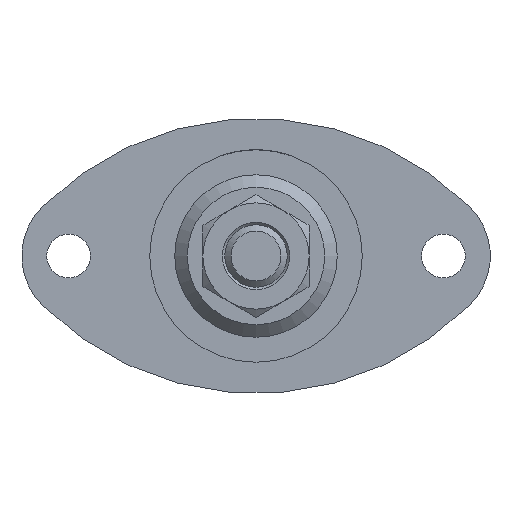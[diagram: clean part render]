
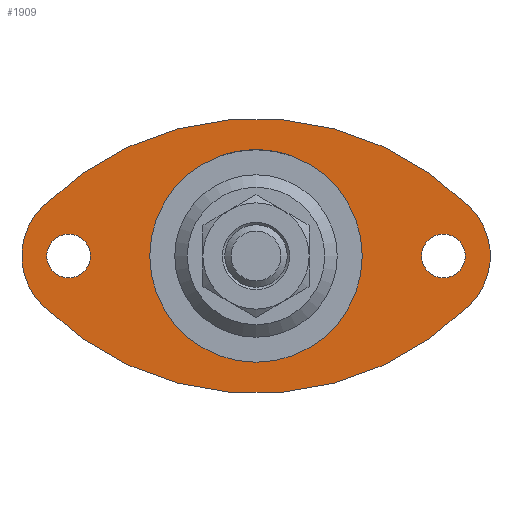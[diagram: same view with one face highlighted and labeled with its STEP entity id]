
A CAD part, front view. The second image highlights one B-rep face of the part: STEP entity #1909.
In plain terms, the highlighted planar face has unit normal (0, -1, 0).
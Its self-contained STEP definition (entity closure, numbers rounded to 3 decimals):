
#185=PLANE('',#2060);
#299=ORIENTED_EDGE('',*,*,#612,.T.);
#300=ORIENTED_EDGE('',*,*,#613,.T.);
#301=ORIENTED_EDGE('',*,*,#614,.T.);
#302=ORIENTED_EDGE('',*,*,#611,.T.);
#303=ORIENTED_EDGE('',*,*,#602,.T.);
#304=ORIENTED_EDGE('',*,*,#606,.T.);
#305=ORIENTED_EDGE('',*,*,#609,.T.);
#602=EDGE_CURVE('',#768,#767,#882,.T.);
#606=EDGE_CURVE('',#767,#770,#884,.T.);
#609=EDGE_CURVE('',#770,#772,#886,.T.);
#611=EDGE_CURVE('',#772,#768,#888,.T.);
#612=EDGE_CURVE('',#773,#773,#889,.T.);
#613=EDGE_CURVE('',#774,#774,#890,.T.);
#614=EDGE_CURVE('',#775,#775,#891,.T.);
#767=VERTEX_POINT('',#2698);
#768=VERTEX_POINT('',#2700);
#770=VERTEX_POINT('',#2706);
#772=VERTEX_POINT('',#2712);
#773=VERTEX_POINT('',#2719);
#774=VERTEX_POINT('',#2721);
#775=VERTEX_POINT('',#2723);
#882=CIRCLE('',#2050,11.);
#884=CIRCLE('',#2053,48.42);
#886=CIRCLE('',#2056,11.);
#888=CIRCLE('',#2059,48.42);
#889=CIRCLE('',#2061,3.5);
#890=CIRCLE('',#2062,3.5);
#891=CIRCLE('',#2063,13.);
#982=EDGE_LOOP('',(#299));
#983=EDGE_LOOP('',(#300));
#984=EDGE_LOOP('',(#301));
#985=EDGE_LOOP('',(#302,#303,#304,#305));
#1132=FACE_BOUND('',#982,.T.);
#1133=FACE_BOUND('',#983,.T.);
#1134=FACE_BOUND('',#984,.T.);
#1135=FACE_BOUND('',#985,.T.);
#1909=ADVANCED_FACE('',(#1132,#1133,#1134,#1135),#185,.T.);
#2050=AXIS2_PLACEMENT_3D('',#2699,#2272,#2273);
#2053=AXIS2_PLACEMENT_3D('',#2707,#2280,#2281);
#2056=AXIS2_PLACEMENT_3D('',#2713,#2287,#2288);
#2059=AXIS2_PLACEMENT_3D('',#2716,#2293,#2294);
#2060=AXIS2_PLACEMENT_3D('',#2717,#2295,#2296);
#2061=AXIS2_PLACEMENT_3D('',#2718,#2297,#2298);
#2062=AXIS2_PLACEMENT_3D('',#2720,#2299,#2300);
#2063=AXIS2_PLACEMENT_3D('',#2722,#2301,#2302);
#2272=DIRECTION('',(0.,-1.,0.));
#2273=DIRECTION('',(1.,0.,0.));
#2280=DIRECTION('',(0.,-1.,0.));
#2281=DIRECTION('',(1.,0.,0.));
#2287=DIRECTION('',(0.,-1.,0.));
#2288=DIRECTION('',(1.,0.,0.));
#2293=DIRECTION('',(0.,-1.,0.));
#2294=DIRECTION('',(1.,0.,0.));
#2295=DIRECTION('',(0.,-1.,0.));
#2296=DIRECTION('',(0.,0.,-1.));
#2297=DIRECTION('',(0.,1.,0.));
#2298=DIRECTION('',(1.,0.,0.));
#2299=DIRECTION('',(0.,1.,0.));
#2300=DIRECTION('',(1.,0.,0.));
#2301=DIRECTION('',(0.,1.,0.));
#2302=DIRECTION('',(1.,0.,0.));
#2698=CARTESIAN_POINT('',(34.29,-4.5,7.766));
#2699=CARTESIAN_POINT('',(26.5,-4.5,0.));
#2700=CARTESIAN_POINT('',(34.29,-4.5,-7.766));
#2706=CARTESIAN_POINT('',(-34.29,-4.5,7.766));
#2707=CARTESIAN_POINT('',(0.,-4.5,-26.42));
#2712=CARTESIAN_POINT('',(-34.29,-4.5,-7.766));
#2713=CARTESIAN_POINT('',(-26.5,-4.5,0.));
#2716=CARTESIAN_POINT('',(0.,-4.5,26.42));
#2717=CARTESIAN_POINT('',(13.25,-4.5,-13.21));
#2718=CARTESIAN_POINT('',(30.,-4.5,0.));
#2719=CARTESIAN_POINT('',(33.5,-4.5,0.));
#2720=CARTESIAN_POINT('',(-30.,-4.5,0.));
#2721=CARTESIAN_POINT('',(-26.5,-4.5,0.));
#2722=CARTESIAN_POINT('',(0.,-4.5,0.));
#2723=CARTESIAN_POINT('',(13.,-4.5,0.));
